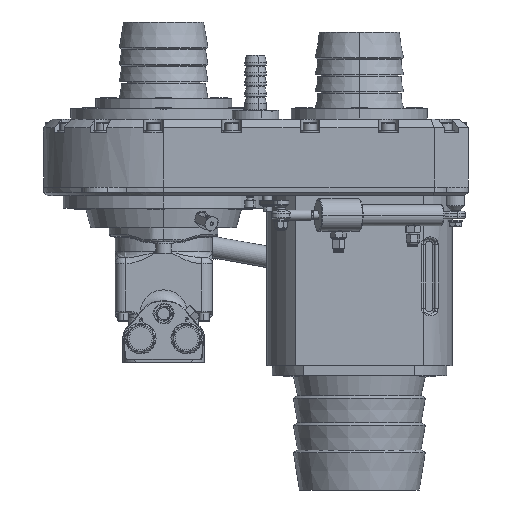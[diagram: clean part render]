
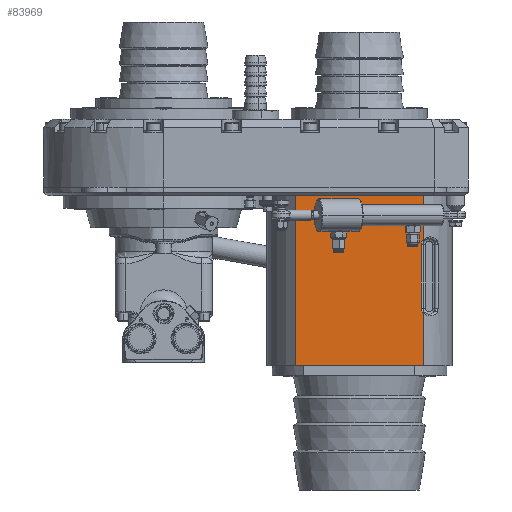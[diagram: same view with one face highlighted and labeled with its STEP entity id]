
A CAD part, front view. The second image highlights one B-rep face of the part: STEP entity #83969.
In plain terms, the highlighted planar face has unit normal (0, -1, 0).
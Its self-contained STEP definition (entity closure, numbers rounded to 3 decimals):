
#18353 = CARTESIAN_POINT ( 'NONE',  ( 155., -79.002, -162. ) ) ;
#30058 = VERTEX_POINT ( 'NONE', #100545 ) ;
#30062 = EDGE_CURVE ( 'NONE', #30058, #82431, #100544, .T. ) ;
#30707 = EDGE_CURVE ( 'NONE', #83911, #30708, #104903, .T. ) ;
#30708 = VERTEX_POINT ( 'NONE', #104998 ) ;
#30709 = ORIENTED_EDGE ( 'NONE', *, *, #30710, .T. ) ;
#30710 = EDGE_CURVE ( 'NONE', #30708, #30711, #104996, .T. ) ;
#30711 = VERTEX_POINT ( 'NONE', #104989 ) ;
#30712 = ORIENTED_EDGE ( 'NONE', *, *, #30713, .T. ) ;
#30713 = EDGE_CURVE ( 'NONE', #30711, #30714, #104985, .T. ) ;
#30714 = VERTEX_POINT ( 'NONE', #104981 ) ;
#30715 = ORIENTED_EDGE ( 'NONE', *, *, #30716, .T. ) ;
#30716 = EDGE_CURVE ( 'NONE', #30714, #84063, #104979, .T. ) ;
#30717 = ORIENTED_EDGE ( 'NONE', *, *, #84017, .F. ) ;
#30718 = ORIENTED_EDGE ( 'NONE', *, *, #30062, .F. ) ;
#48591 = CARTESIAN_POINT ( 'NONE',  ( 303., -79.002, -94.5 ) ) ;
#48593 = DIRECTION ( 'NONE',  ( 0., 0., 1. ) ) ;
#48596 = DIRECTION ( 'NONE',  ( 0., 1., 0. ) ) ;
#48600 = CARTESIAN_POINT ( 'NONE',  ( 312., -79.002, -94.5 ) ) ;
#48603 = AXIS2_PLACEMENT_3D ( 'NONE', #48600, #48596, #48593 ) ;
#48605 = CIRCLE ( 'NONE', #48603, 9. ) ;
#48614 = VECTOR ( 'NONE', #48641, 1000. ) ;
#48641 = DIRECTION ( 'NONE',  ( 0., 0., 1. ) ) ;
#48643 = CARTESIAN_POINT ( 'NONE',  ( 305., -79.002, -162. ) ) ;
#48653 = LINE ( 'NONE', #48643, #48614 ) ;
#48855 = FACE_OUTER_BOUND ( 'NONE', #84021, .T. ) ;
#48937 = CARTESIAN_POINT ( 'NONE',  ( 305., -79.002, -100.157 ) ) ;
#48938 = DIRECTION ( 'NONE',  ( 0., 0., 1. ) ) ;
#48939 = DIRECTION ( 'NONE',  ( 0., 1., 0. ) ) ;
#48941 = CARTESIAN_POINT ( 'NONE',  ( 155., -79.002, -162. ) ) ;
#48943 = AXIS2_PLACEMENT_3D ( 'NONE', #48941, #48939, #48938 ) ;
#48947 = PLANE ( 'NONE',  #48943 ) ;
#49017 = DIRECTION ( 'NONE',  ( 0., 0., 1. ) ) ;
#49018 = VECTOR ( 'NONE', #49017, 1000. ) ;
#49019 = CARTESIAN_POINT ( 'NONE',  ( 155., -79.002, -162. ) ) ;
#49020 = LINE ( 'NONE', #49019, #49018 ) ;
#49159 = CARTESIAN_POINT ( 'NONE',  ( 155., -79.002, 38. ) ) ;
#82431 = VERTEX_POINT ( 'NONE', #18353 ) ;
#83904 = EDGE_CURVE ( 'NONE', #30058, #83972, #48653, .T. ) ;
#83906 = ORIENTED_EDGE ( 'NONE', *, *, #83908, .T. ) ;
#83908 = EDGE_CURVE ( 'NONE', #83972, #83911, #48605, .T. ) ;
#83911 = VERTEX_POINT ( 'NONE', #48591 ) ;
#83914 = ORIENTED_EDGE ( 'NONE', *, *, #30707, .T. ) ;
#83969 = ADVANCED_FACE ( 'NONE', ( #48855 ), #48947, .F. ) ;
#83971 = ORIENTED_EDGE ( 'NONE', *, *, #83904, .T. ) ;
#83972 = VERTEX_POINT ( 'NONE', #48937 ) ;
#84017 = EDGE_CURVE ( 'NONE', #82431, #84063, #49020, .T. ) ;
#84021 = EDGE_LOOP ( 'NONE', ( #83971, #83906, #83914, #30709, #30712, #30715, #30717, #30718 ) ) ;
#84063 = VERTEX_POINT ( 'NONE', #49159 ) ;
#100541 = DIRECTION ( 'NONE',  ( -1., 0., 0. ) ) ;
#100542 = VECTOR ( 'NONE', #100541, 1000. ) ;
#100543 = CARTESIAN_POINT ( 'NONE',  ( 155., -79.002, -162. ) ) ;
#100544 = LINE ( 'NONE', #100543, #100542 ) ;
#100545 = CARTESIAN_POINT ( 'NONE',  ( 305., -79.002, -162. ) ) ;
#104901 = DIRECTION ( 'NONE',  ( 0., 0., 1. ) ) ;
#104902 = CARTESIAN_POINT ( 'NONE',  ( 303., -79.002, -162. ) ) ;
#104903 = LINE ( 'NONE', #104902, #104999 ) ;
#104976 = DIRECTION ( 'NONE',  ( -1., 0., 0. ) ) ;
#104977 = VECTOR ( 'NONE', #104976, 1000. ) ;
#104978 = CARTESIAN_POINT ( 'NONE',  ( 155., -79.002, 38. ) ) ;
#104979 = LINE ( 'NONE', #104978, #104977 ) ;
#104981 = CARTESIAN_POINT ( 'NONE',  ( 305., -79.002, 38. ) ) ;
#104982 = DIRECTION ( 'NONE',  ( 0., 0., 1. ) ) ;
#104983 = VECTOR ( 'NONE', #104982, 1000. ) ;
#104984 = CARTESIAN_POINT ( 'NONE',  ( 305., -79.002, -162. ) ) ;
#104985 = LINE ( 'NONE', #104984, #104983 ) ;
#104989 = CARTESIAN_POINT ( 'NONE',  ( 305., -79.002, -13.843 ) ) ;
#104991 = DIRECTION ( 'NONE',  ( 0., 0., 1. ) ) ;
#104993 = DIRECTION ( 'NONE',  ( 0., 1., 0. ) ) ;
#104994 = CARTESIAN_POINT ( 'NONE',  ( 312., -79.002, -19.5 ) ) ;
#104995 = AXIS2_PLACEMENT_3D ( 'NONE', #104994, #104993, #104991 ) ;
#104996 = CIRCLE ( 'NONE', #104995, 9. ) ;
#104998 = CARTESIAN_POINT ( 'NONE',  ( 303., -79.002, -19.5 ) ) ;
#104999 = VECTOR ( 'NONE', #104901, 1000. ) ;
